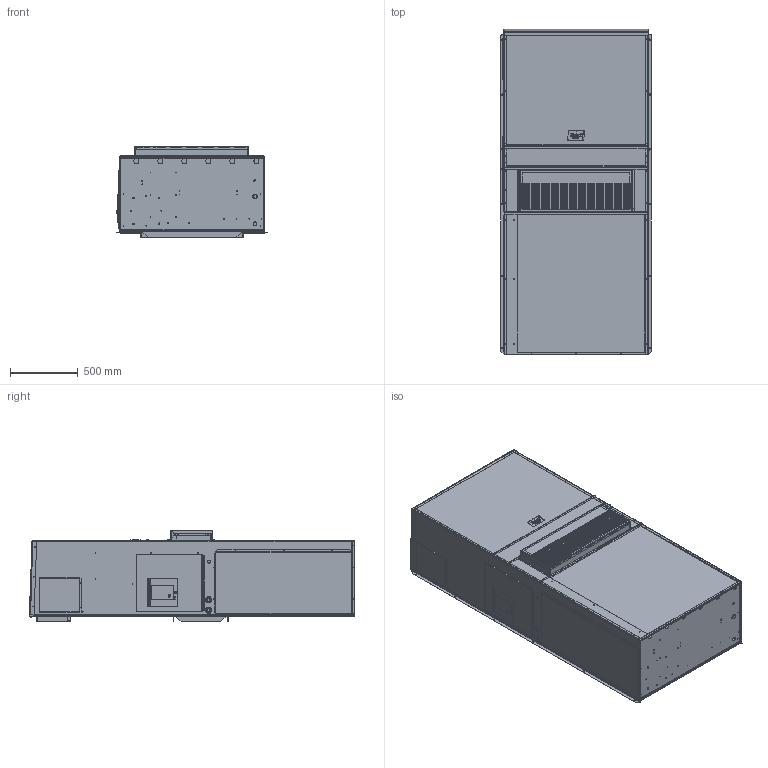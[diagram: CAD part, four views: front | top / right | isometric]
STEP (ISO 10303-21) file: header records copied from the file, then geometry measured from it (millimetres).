
FILE_DESCRIPTION (( 'STEP AP203' ), '1' );
FILE_NAME ('STEP_1500_3.STEP', '2016-06-29T15:14:30', ( 'BMC' ), ( 'Bard Manufacturing Co., Inc.' ), 'SwSTEP 2.0', 'SolidWorks 2016', '' );
FILE_SCHEMA (( 'CONFIG_CONTROL_DESIGN' ));
Products named in the file (1): STEP_1500_3
Bounding box: 1115.67 x 2410.46 x 680 mm (x, y, z)
Surface area: 21110399.9 mm2 (no closed solid volume)
Topology: 0 solids, 54 shells, 3000 faces, 9077 edges, 5976 vertices
Faces by surface type: plane 1561, cylinder 1024, torus 247, bspline 143, sphere 17, cone 8
Entity records: 115219 total; most frequent: CARTESIAN_POINT 31572, DIRECTION 16994, ORIENTED_EDGE 16935, EDGE_CURVE 9065, VERTEX_POINT 5972, VECTOR 5752, LINE 5752, AXIS2_PLACEMENT_3D 5621
